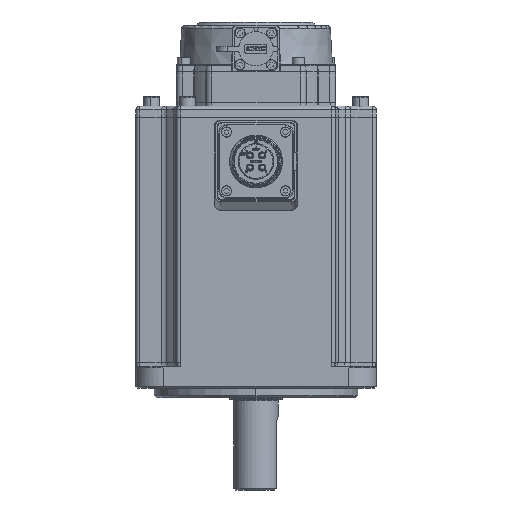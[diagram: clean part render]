
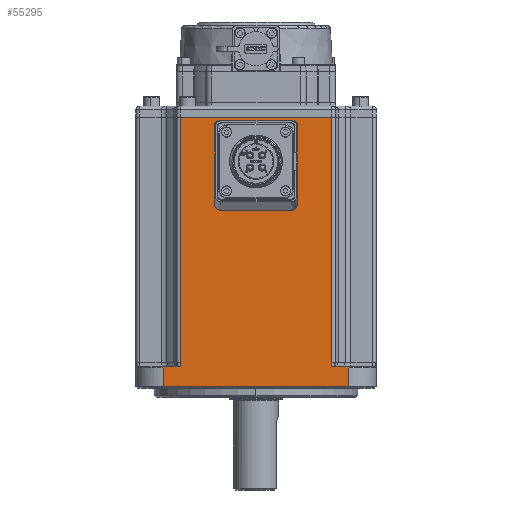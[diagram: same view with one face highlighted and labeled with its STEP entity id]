
A CAD part, left-side view. The second image highlights one B-rep face of the part: STEP entity #55295.
In plain terms, the highlighted planar face has unit normal (-1, 0, 0).
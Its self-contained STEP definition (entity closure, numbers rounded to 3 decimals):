
#950 = DIRECTION ( 'NONE',  ( 0., -1., 0. ) ) ;
#1401 = ORIENTED_EDGE ( 'NONE', *, *, #18432, .T. ) ;
#2774 = EDGE_CURVE ( 'NONE', #25636, #75298, #56624, .T. ) ;
#3655 = CARTESIAN_POINT ( 'NONE',  ( -65., -41.035, 64.75 ) ) ;
#4652 = DIRECTION ( 'NONE',  ( 0., 0., 1. ) ) ;
#5211 = LINE ( 'NONE', #44480, #84132 ) ;
#5675 = CARTESIAN_POINT ( 'NONE',  ( -65., -50., 64.75 ) ) ;
#6145 = CARTESIAN_POINT ( 'NONE',  ( -65., -41.035, 64.75 ) ) ;
#8562 = ORIENTED_EDGE ( 'NONE', *, *, #70219, .F. ) ;
#13099 = PLANE ( 'NONE',  #91463 ) ;
#16334 = CARTESIAN_POINT ( 'NONE',  ( -65., -41.035, -67.75 ) ) ;
#18061 = ORIENTED_EDGE ( 'NONE', *, *, #72494, .T. ) ;
#18432 = EDGE_CURVE ( 'NONE', #27041, #98580, #100048, .T. ) ;
#18769 = ORIENTED_EDGE ( 'NONE', *, *, #55283, .T. ) ;
#21106 = DIRECTION ( 'NONE',  ( 0., 0., -1. ) ) ;
#21377 = CARTESIAN_POINT ( 'NONE',  ( -65., 41.035, -67.75 ) ) ;
#21508 = EDGE_CURVE ( 'NONE', #91151, #98580, #46409, .T. ) ;
#21597 = DIRECTION ( 'NONE',  ( 0., 1., 0. ) ) ;
#21958 = ORIENTED_EDGE ( 'NONE', *, *, #42538, .F. ) ;
#22269 = CARTESIAN_POINT ( 'NONE',  ( -65., 50., -70.247 ) ) ;
#24197 = EDGE_CURVE ( 'NONE', #91151, #35436, #102462, .T. ) ;
#24658 = VECTOR ( 'NONE', #82163, 1000. ) ;
#24682 = CARTESIAN_POINT ( 'NONE',  ( -65., -50., -70.256 ) ) ;
#25340 = CARTESIAN_POINT ( 'NONE',  ( -65., -50., -80.75 ) ) ;
#25636 = VERTEX_POINT ( 'NONE', #98706 ) ;
#26923 = VECTOR ( 'NONE', #102989, 1000. ) ;
#27041 = VERTEX_POINT ( 'NONE', #16334 ) ;
#29027 = LINE ( 'NONE', #102598, #74611 ) ;
#34613 = CARTESIAN_POINT ( 'NONE',  ( -65., 41.035, -70.094 ) ) ;
#35436 = VERTEX_POINT ( 'NONE', #21377 ) ;
#38459 = VECTOR ( 'NONE', #44135, 1000. ) ;
#41890 = DIRECTION ( 'NONE',  ( 0., 0., 1. ) ) ;
#42538 = EDGE_CURVE ( 'NONE', #103383, #100275, #89588, .T. ) ;
#42587 = LINE ( 'NONE', #52072, #38459 ) ;
#44135 = DIRECTION ( 'NONE',  ( 0., -1., -0.018 ) ) ;
#44480 = CARTESIAN_POINT ( 'NONE',  ( -65., 50., 64.75 ) ) ;
#44779 = DIRECTION ( 'NONE',  ( 0., 0., -1. ) ) ;
#45459 = LINE ( 'NONE', #5675, #93211 ) ;
#45545 = VECTOR ( 'NONE', #94529, 1000. ) ;
#46409 = LINE ( 'NONE', #70736, #26923 ) ;
#47603 = EDGE_CURVE ( 'NONE', #103383, #25636, #5211, .T. ) ;
#52072 = CARTESIAN_POINT ( 'NONE',  ( -65., -40.607, -70.089 ) ) ;
#54112 = ORIENTED_EDGE ( 'NONE', *, *, #24197, .T. ) ;
#55283 = EDGE_CURVE ( 'NONE', #86154, #27041, #29027, .T. ) ;
#55295 = ADVANCED_FACE ( 'NONE', ( #85667 ), #13099, .F. ) ;
#56624 = LINE ( 'NONE', #25340, #95187 ) ;
#57312 = CARTESIAN_POINT ( 'NONE',  ( -65., -45.287, -68.613 ) ) ;
#59027 = ORIENTED_EDGE ( 'NONE', *, *, #2774, .T. ) ;
#62272 = CARTESIAN_POINT ( 'NONE',  ( -65., 41.035, 64.75 ) ) ;
#63863 = VECTOR ( 'NONE', #41890, 1000. ) ;
#65900 = CARTESIAN_POINT ( 'NONE',  ( -65., 41.035, 64.75 ) ) ;
#69824 = CARTESIAN_POINT ( 'NONE',  ( -65., -43., 64.75 ) ) ;
#70219 = EDGE_CURVE ( 'NONE', #86154, #99763, #42587, .T. ) ;
#70736 = CARTESIAN_POINT ( 'NONE',  ( -65., -43., 64.75 ) ) ;
#70829 = DIRECTION ( 'NONE',  ( 0., 0., 1. ) ) ;
#72494 = EDGE_CURVE ( 'NONE', #35436, #100275, #101901, .T. ) ;
#74611 = VECTOR ( 'NONE', #4652, 1000. ) ;
#74650 = ORIENTED_EDGE ( 'NONE', *, *, #21508, .F. ) ;
#75298 = VERTEX_POINT ( 'NONE', #86320 ) ;
#76013 = VECTOR ( 'NONE', #44779, 1000. ) ;
#77697 = EDGE_CURVE ( 'NONE', #75298, #99763, #45459, .T. ) ;
#80617 = ORIENTED_EDGE ( 'NONE', *, *, #47603, .T. ) ;
#82163 = DIRECTION ( 'NONE',  ( 0., -1., 0.017 ) ) ;
#83635 = EDGE_LOOP ( 'NONE', ( #54112, #18061, #21958, #80617, #59027, #92502, #8562, #18769, #1401, #74650 ) ) ;
#84132 = VECTOR ( 'NONE', #21106, 1000. ) ;
#85667 = FACE_OUTER_BOUND ( 'NONE', #83635, .T. ) ;
#86015 = CARTESIAN_POINT ( 'NONE',  ( -65., 41.035, -67.75 ) ) ;
#86154 = VERTEX_POINT ( 'NONE', #88127 ) ;
#86320 = CARTESIAN_POINT ( 'NONE',  ( -65., -50., -80.75 ) ) ;
#88127 = CARTESIAN_POINT ( 'NONE',  ( -65., -41.035, -70.096 ) ) ;
#89588 = LINE ( 'NONE', #57312, #24658 ) ;
#91151 = VERTEX_POINT ( 'NONE', #65900 ) ;
#91463 = AXIS2_PLACEMENT_3D ( 'NONE', #69824, #94154, #21597 ) ;
#92502 = ORIENTED_EDGE ( 'NONE', *, *, #77697, .T. ) ;
#93211 = VECTOR ( 'NONE', #70829, 1000. ) ;
#94154 = DIRECTION ( 'NONE',  ( 1., 0., 0. ) ) ;
#94529 = DIRECTION ( 'NONE',  ( 0., 0., -1. ) ) ;
#95187 = VECTOR ( 'NONE', #950, 1000. ) ;
#98580 = VERTEX_POINT ( 'NONE', #6145 ) ;
#98706 = CARTESIAN_POINT ( 'NONE',  ( -65., 50., -80.75 ) ) ;
#99763 = VERTEX_POINT ( 'NONE', #24682 ) ;
#100048 = LINE ( 'NONE', #3655, #63863 ) ;
#100275 = VERTEX_POINT ( 'NONE', #34613 ) ;
#101901 = LINE ( 'NONE', #86015, #76013 ) ;
#102462 = LINE ( 'NONE', #62272, #45545 ) ;
#102598 = CARTESIAN_POINT ( 'NONE',  ( -65., -41.035, 64.75 ) ) ;
#102989 = DIRECTION ( 'NONE',  ( 0., -1., 0. ) ) ;
#103383 = VERTEX_POINT ( 'NONE', #22269 ) ;
